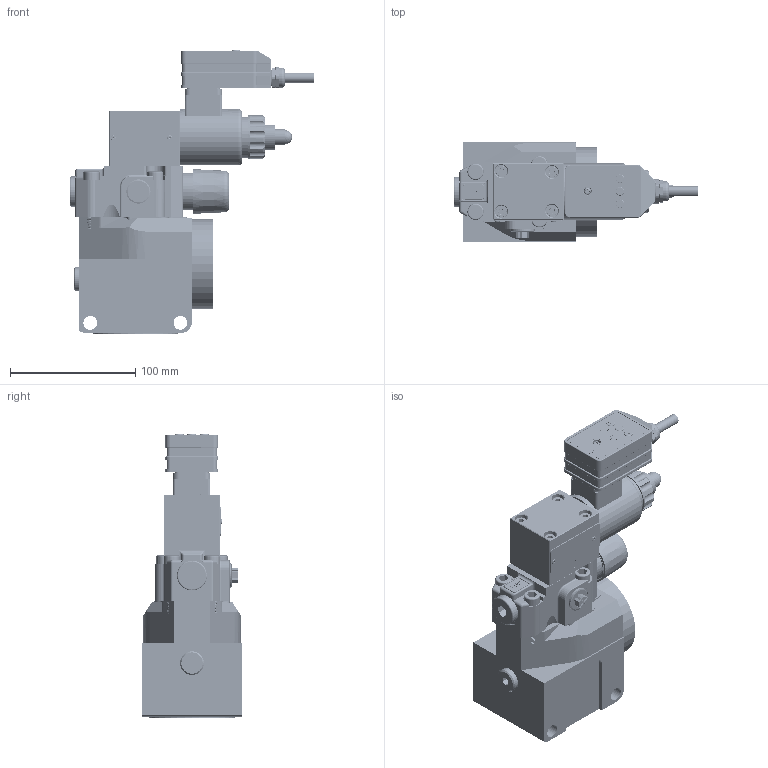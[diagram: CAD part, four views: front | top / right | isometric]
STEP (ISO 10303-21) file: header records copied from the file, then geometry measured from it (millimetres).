
FILE_DESCRIPTION(/* description */ (''),/* implementation_level */ '2;1');
FILE_NAME(/* name */ 'DBEME10G-7XJ.stp',/* time_stamp */ '2024-01-15T13:47:52+08:00',/* author */ (''),/* organization */ (''),/* preprocessor_version */ 'ST-DEVELOPER v16.7',/* originating_system */ 'SIEMENS PLM Software NX 12.0',/* authorisation */ '');
FILE_SCHEMA (('AUTOMOTIVE_DESIGN { 1 0 10303 214 3 1 1 1 }'));
Products named in the file (1): DBEME10G-7XJ
Bounding box: 195.56 x 80.01 x 227.21 mm (x, y, z)
Volume: 883560.5 mm3; surface area: 260493.4 mm2
Topology: 76 solids, 87 shells, 3336 faces, 8531 edges, 5565 vertices
Faces by surface type: plane 1540, cylinder 1162, cone 232, bspline 139, extrusion 139, torus 109, sphere 12, revolution 3
Full cylindrical faces by diameter (mm): 0.8 x2, 1 x3, 1.5 x5, 1.6 x1, 1.8 x6, 2 x6, 3 x7, 3.3 x15, 3.4 x22, 4 x5, 4.2 x1, 4.3 x48, 4.8 x1, 5 x116, 5.4 x1, 5.5 x3, 5.6 x3, 6 x2, 6.7 x49, 7 x2, 7.49 x1, 7.5 x1, 7.54 x1, 8 x85, 8.3 x1, 8.4 x6, 8.5 x4, 9 x3, 9.5 x1, 9.8 x1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
Entity records: 229841 total; most frequent: CARTESIAN_POINT 156304, ORIENTED_EDGE 13658, DIRECTION 13055, EDGE_CURVE 6829, VERTEX_POINT 4694, AXIS2_PLACEMENT_3D 4662, EDGE_LOOP 3804, VECTOR 3728
